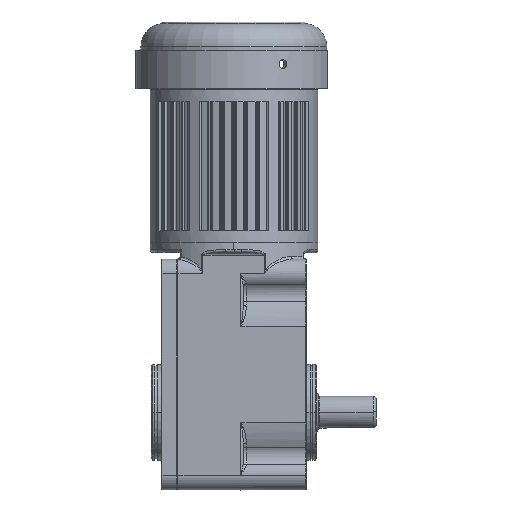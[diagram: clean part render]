
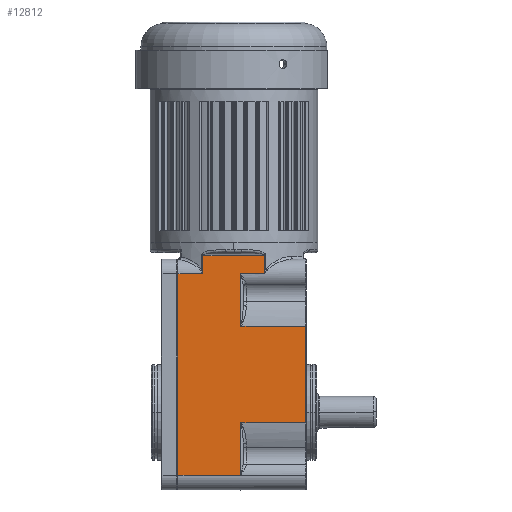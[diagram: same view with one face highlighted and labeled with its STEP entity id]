
A CAD part, left-side view. The second image highlights one B-rep face of the part: STEP entity #12812.
In plain terms, the highlighted planar face has unit normal (-1, 0, 0).
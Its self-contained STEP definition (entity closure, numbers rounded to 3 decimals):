
#265 = CARTESIAN_POINT ( 'NONE',  ( 4.25, 54.5, -134.467 ) ) ;
#1175 = EDGE_CURVE ( 'NONE', #3366, #67700, #46479, .T. ) ;
#1534 = CARTESIAN_POINT ( 'NONE',  ( 4.25, 54.115, -134.331 ) ) ;
#1590 = VERTEX_POINT ( 'NONE', #22490 ) ;
#2393 = CARTESIAN_POINT ( 'NONE',  ( 4.25, 37.65, -31.5 ) ) ;
#2519 = EDGE_CURVE ( 'NONE', #34267, #37207, #23794, .T. ) ;
#3283 = CARTESIAN_POINT ( 'NONE',  ( 4.25, 9.5, -134.331 ) ) ;
#3366 = VERTEX_POINT ( 'NONE', #46364 ) ;
#3471 = VERTEX_POINT ( 'NONE', #4068 ) ;
#4068 = CARTESIAN_POINT ( 'NONE',  ( 4.25, 54.115, -134.331 ) ) ;
#4074 = CARTESIAN_POINT ( 'NONE',  ( 4.25, 54.116, -67.669 ) ) ;
#4655 = EDGE_CURVE ( 'NONE', #3366, #51020, #67363, .T. ) ;
#4839 = ORIENTED_EDGE ( 'NONE', *, *, #4655, .T. ) ;
#6302 = DIRECTION ( 'NONE',  ( 0., 1., 0. ) ) ;
#6406 = DIRECTION ( 'NONE',  ( 0., -1., 0. ) ) ;
#7985 = LINE ( 'NONE', #58472, #47546 ) ;
#8596 = CARTESIAN_POINT ( 'NONE',  ( 4.25, 54.5, -67.533 ) ) ;
#9505 = EDGE_CURVE ( 'NONE', #3471, #67700, #24673, .T. ) ;
#9987 = VERTEX_POINT ( 'NONE', #55608 ) ;
#10521 = CARTESIAN_POINT ( 'NONE',  ( 4.25, 9.5, -67.669 ) ) ;
#12197 = ORIENTED_EDGE ( 'NONE', *, *, #14235, .T. ) ;
#12812 = ADVANCED_FACE ( 'NONE', ( #26939 ), #49753, .T. ) ;
#13552 = ORIENTED_EDGE ( 'NONE', *, *, #1175, .F. ) ;
#14235 = EDGE_CURVE ( 'NONE', #15031, #41738, #55665, .T. ) ;
#14270 = LINE ( 'NONE', #70027, #31877 ) ;
#14843 = LINE ( 'NONE', #43297, #47928 ) ;
#15031 = VERTEX_POINT ( 'NONE', #49055 ) ;
#15629 = DIRECTION ( 'NONE',  ( 0., 0., 1. ) ) ;
#17396 = CARTESIAN_POINT ( 'NONE',  ( 4.25, 54.402, -134.387 ) ) ;
#17471 = CARTESIAN_POINT ( 'NONE',  ( 4.25, 37.65, -19. ) ) ;
#17623 = EDGE_CURVE ( 'NONE', #9987, #33155, #14270, .T. ) ;
#19412 = ORIENTED_EDGE ( 'NONE', *, *, #46039, .T. ) ;
#19792 = CARTESIAN_POINT ( 'NONE',  ( 4.25, 54.116, -67.669 ) ) ;
#21143 = ORIENTED_EDGE ( 'NONE', *, *, #9505, .T. ) ;
#21684 = EDGE_LOOP ( 'NONE', ( #49206, #30524, #62334, #40469, #70134, #65734, #24817, #19412, #21143, #13552, #4839, #69231, #12197, #31667 ) ) ;
#21974 = LINE ( 'NONE', #17471, #50448 ) ;
#22490 = CARTESIAN_POINT ( 'NONE',  ( 4.25, 37.65, -19. ) ) ;
#22870 = EDGE_CURVE ( 'NONE', #1590, #62375, #21974, .T. ) ;
#23022 = CARTESIAN_POINT ( 'NONE',  ( 4.25, 54.168, -134.331 ) ) ;
#23794 = LINE ( 'NONE', #28684, #67306 ) ;
#24341 = VECTOR ( 'NONE', #39026, 1000. ) ;
#24673 = LINE ( 'NONE', #1534, #38446 ) ;
#24817 = ORIENTED_EDGE ( 'NONE', *, *, #2519, .T. ) ;
#25913 = B_SPLINE_CURVE_WITH_KNOTS ( 'NONE', 3,
 ( #265, #69058, #17396, #57456, #23022, #40986 ),
 .UNSPECIFIED., .F., .F.,
 ( 4, 1, 1, 4 ),
 ( 0., 0.333, 0.667, 1. ),
 .UNSPECIFIED. ) ;
#26939 = FACE_OUTER_BOUND ( 'NONE', #21684, .T. ) ;
#28684 = CARTESIAN_POINT ( 'NONE',  ( 4.25, 54.5, -170.5 ) ) ;
#29160 = VECTOR ( 'NONE', #15629, 1000. ) ;
#29974 = VECTOR ( 'NONE', #60325, 1000. ) ;
#30280 = CARTESIAN_POINT ( 'NONE',  ( 4.25, 54.5, -67.533 ) ) ;
#30379 = LINE ( 'NONE', #2393, #29974 ) ;
#30524 = ORIENTED_EDGE ( 'NONE', *, *, #22870, .T. ) ;
#31667 = ORIENTED_EDGE ( 'NONE', *, *, #44585, .T. ) ;
#31877 = VECTOR ( 'NONE', #42323, 1000. ) ;
#32201 = DIRECTION ( 'NONE',  ( 0., 1., 0. ) ) ;
#33155 = VERTEX_POINT ( 'NONE', #53656 ) ;
#33459 = LINE ( 'NONE', #56281, #63598 ) ;
#34267 = VERTEX_POINT ( 'NONE', #63531 ) ;
#37026 = CARTESIAN_POINT ( 'NONE',  ( 4.25, 54.47, -67.564 ) ) ;
#37041 = VERTEX_POINT ( 'NONE', #47712 ) ;
#37207 = VERTEX_POINT ( 'NONE', #45763 ) ;
#37351 = EDGE_CURVE ( 'NONE', #37041, #34267, #7985, .T. ) ;
#37682 = DIRECTION ( 'NONE',  ( 0., 0., 1. ) ) ;
#38446 = VECTOR ( 'NONE', #6406, 1000. ) ;
#39026 = DIRECTION ( 'NONE',  ( 0., 0., -1. ) ) ;
#40469 = ORIENTED_EDGE ( 'NONE', *, *, #17623, .T. ) ;
#40986 = CARTESIAN_POINT ( 'NONE',  ( 4.25, 54.115, -134.331 ) ) ;
#41738 = VERTEX_POINT ( 'NONE', #56804 ) ;
#42323 = DIRECTION ( 'NONE',  ( 0., 1., 0. ) ) ;
#42646 = CARTESIAN_POINT ( 'NONE',  ( 4.25, 54.168, -67.669 ) ) ;
#43297 = CARTESIAN_POINT ( 'NONE',  ( 4.25, 97.5, -170.5 ) ) ;
#44205 = VECTOR ( 'NONE', #69211, 1000. ) ;
#44585 = EDGE_CURVE ( 'NONE', #41738, #67003, #51986, .T. ) ;
#45763 = CARTESIAN_POINT ( 'NONE',  ( 4.25, 54.5, -134.467 ) ) ;
#46039 = EDGE_CURVE ( 'NONE', #37207, #3471, #25913, .T. ) ;
#46364 = CARTESIAN_POINT ( 'NONE',  ( 4.25, 9.5, -67.669 ) ) ;
#46390 = CARTESIAN_POINT ( 'NONE',  ( 4.25, 54.5, -31.5 ) ) ;
#46479 = LINE ( 'NONE', #69292, #24341 ) ;
#47214 = EDGE_CURVE ( 'NONE', #67003, #1590, #30379, .T. ) ;
#47546 = VECTOR ( 'NONE', #52481, 1000. ) ;
#47712 = CARTESIAN_POINT ( 'NONE',  ( 4.25, 97.5, -170.5 ) ) ;
#47928 = VECTOR ( 'NONE', #37682, 1000. ) ;
#48793 = EDGE_CURVE ( 'NONE', #62375, #9987, #33459, .T. ) ;
#49055 = CARTESIAN_POINT ( 'NONE',  ( 4.25, 54.5, -67.533 ) ) ;
#49206 = ORIENTED_EDGE ( 'NONE', *, *, #47214, .T. ) ;
#49753 = PLANE ( 'NONE',  #52001 ) ;
#50448 = VECTOR ( 'NONE', #6302, 1000. ) ;
#51020 = VERTEX_POINT ( 'NONE', #4074 ) ;
#51986 = LINE ( 'NONE', #46390, #44205 ) ;
#52001 = AXIS2_PLACEMENT_3D ( 'NONE', #71491, #60254, #66239 ) ;
#52032 = EDGE_CURVE ( 'NONE', #51020, #15031, #61889, .T. ) ;
#52481 = DIRECTION ( 'NONE',  ( 0., -1., 0. ) ) ;
#52561 = EDGE_CURVE ( 'NONE', #37041, #33155, #14843, .T. ) ;
#52751 = CARTESIAN_POINT ( 'NONE',  ( 4.25, 54.4, -67.613 ) ) ;
#53656 = CARTESIAN_POINT ( 'NONE',  ( 4.25, 97.5, -31.5 ) ) ;
#55608 = CARTESIAN_POINT ( 'NONE',  ( 4.25, 80.35, -31.5 ) ) ;
#55665 = LINE ( 'NONE', #8596, #29160 ) ;
#56281 = CARTESIAN_POINT ( 'NONE',  ( 4.25, 80.35, -19. ) ) ;
#56804 = CARTESIAN_POINT ( 'NONE',  ( 4.25, 54.5, -31.5 ) ) ;
#57456 = CARTESIAN_POINT ( 'NONE',  ( 4.25, 54.268, -134.341 ) ) ;
#58472 = CARTESIAN_POINT ( 'NONE',  ( 4.25, 97.5, -170.5 ) ) ;
#60254 = DIRECTION ( 'NONE',  ( -1., 0., 0. ) ) ;
#60325 = DIRECTION ( 'NONE',  ( 0., 0., 1. ) ) ;
#61006 = CARTESIAN_POINT ( 'NONE',  ( 4.25, 37.65, -31.5 ) ) ;
#61889 = B_SPLINE_CURVE_WITH_KNOTS ( 'NONE', 3,
 ( #19792, #42646, #65482, #52751, #37026, #30280 ),
 .UNSPECIFIED., .F., .F.,
 ( 4, 1, 1, 4 ),
 ( 0., 0.333, 0.667, 1. ),
 .UNSPECIFIED. ) ;
#62334 = ORIENTED_EDGE ( 'NONE', *, *, #48793, .T. ) ;
#62375 = VERTEX_POINT ( 'NONE', #66921 ) ;
#63531 = CARTESIAN_POINT ( 'NONE',  ( 4.25, 54.5, -170.5 ) ) ;
#63598 = VECTOR ( 'NONE', #68617, 1000. ) ;
#65471 = VECTOR ( 'NONE', #32201, 1000. ) ;
#65482 = CARTESIAN_POINT ( 'NONE',  ( 4.25, 54.267, -67.659 ) ) ;
#65734 = ORIENTED_EDGE ( 'NONE', *, *, #37351, .T. ) ;
#66239 = DIRECTION ( 'NONE',  ( 0., 0., 1. ) ) ;
#66921 = CARTESIAN_POINT ( 'NONE',  ( 4.25, 80.35, -19. ) ) ;
#67003 = VERTEX_POINT ( 'NONE', #61006 ) ;
#67306 = VECTOR ( 'NONE', #69449, 1000. ) ;
#67363 = LINE ( 'NONE', #10521, #65471 ) ;
#67700 = VERTEX_POINT ( 'NONE', #3283 ) ;
#68617 = DIRECTION ( 'NONE',  ( 0., 0., -1. ) ) ;
#69058 = CARTESIAN_POINT ( 'NONE',  ( 4.25, 54.47, -134.437 ) ) ;
#69211 = DIRECTION ( 'NONE',  ( 0., -1., 0. ) ) ;
#69231 = ORIENTED_EDGE ( 'NONE', *, *, #52032, .T. ) ;
#69292 = CARTESIAN_POINT ( 'NONE',  ( 4.25, 9.5, -67.669 ) ) ;
#69449 = DIRECTION ( 'NONE',  ( 0., 0., 1. ) ) ;
#70027 = CARTESIAN_POINT ( 'NONE',  ( 4.25, 80.35, -31.5 ) ) ;
#70134 = ORIENTED_EDGE ( 'NONE', *, *, #52561, .F. ) ;
#71491 = CARTESIAN_POINT ( 'NONE',  ( 4.25, 9., -180.5 ) ) ;
